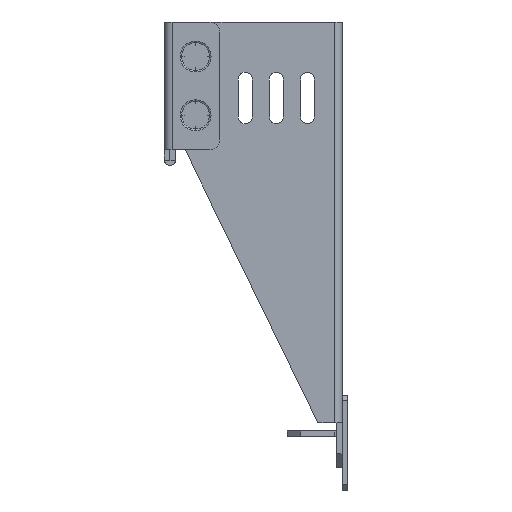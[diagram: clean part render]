
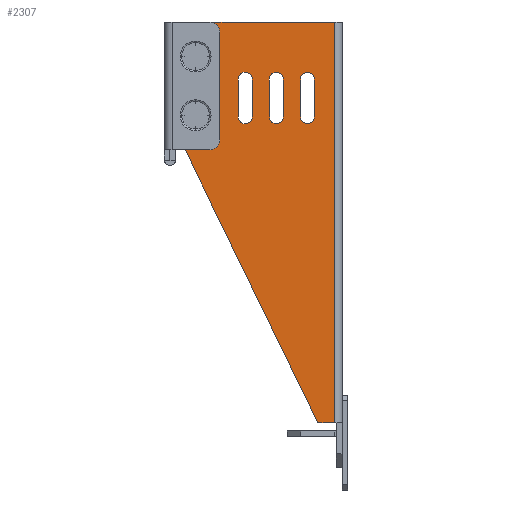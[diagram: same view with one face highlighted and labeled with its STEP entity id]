
A CAD part, left-side view. The second image highlights one B-rep face of the part: STEP entity #2307.
In plain terms, the highlighted planar face has unit normal (-1, 0, 0).
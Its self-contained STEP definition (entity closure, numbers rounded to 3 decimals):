
#485=DIRECTION('',(0.,1.,0.));
#486=VECTOR('',#485,46.2);
#487=CARTESIAN_POINT('',(-93.2,2.2,120.));
#488=LINE('',#487,#486);
#489=DIRECTION('',(0.,-1.,0.));
#490=VECTOR('',#489,4.8);
#491=CARTESIAN_POINT('',(-93.2,7.,4.));
#492=LINE('',#491,#490);
#493=DIRECTION('',(0.,-0.437,-0.899));
#494=VECTOR('',#493,90.074);
#495=CARTESIAN_POINT('',(-93.2,46.4,85.));
#496=LINE('',#495,#494);
#497=DIRECTION('',(0.,-1.,0.));
#498=VECTOR('',#497,2.);
#499=CARTESIAN_POINT('',(-93.2,48.4,85.));
#500=LINE('',#499,#498);
#501=DIRECTION('',(0.,0.,-1.));
#502=VECTOR('',#501,35.);
#503=CARTESIAN_POINT('',(-93.2,48.4,120.));
#504=LINE('',#503,#502);
#505=CARTESIAN_POINT('',(-93.2,10.,92.5));
#506=DIRECTION('',(-1.,0.,0.));
#507=DIRECTION('',(0.,1.,0.));
#508=AXIS2_PLACEMENT_3D('',#505,#506,#507);
#510=DIRECTION('',(0.,0.,-1.));
#511=VECTOR('',#510,11.);
#512=CARTESIAN_POINT('',(-93.2,8.,103.5));
#513=LINE('',#512,#511);
#514=CARTESIAN_POINT('',(-93.2,10.,103.5));
#515=DIRECTION('',(-1.,0.,0.));
#516=DIRECTION('',(0.,-1.,0.));
#517=AXIS2_PLACEMENT_3D('',#514,#515,#516);
#519=DIRECTION('',(0.,0.,1.));
#520=VECTOR('',#519,11.);
#521=CARTESIAN_POINT('',(-93.2,12.,92.5));
#522=LINE('',#521,#520);
#523=CARTESIAN_POINT('',(-93.2,19.,92.5));
#524=DIRECTION('',(-1.,0.,0.));
#525=DIRECTION('',(0.,1.,0.));
#526=AXIS2_PLACEMENT_3D('',#523,#524,#525);
#528=DIRECTION('',(0.,0.,-1.));
#529=VECTOR('',#528,11.);
#530=CARTESIAN_POINT('',(-93.2,17.,103.5));
#531=LINE('',#530,#529);
#532=CARTESIAN_POINT('',(-93.2,19.,103.5));
#533=DIRECTION('',(-1.,0.,0.));
#534=DIRECTION('',(0.,-1.,0.));
#535=AXIS2_PLACEMENT_3D('',#532,#533,#534);
#537=DIRECTION('',(0.,0.,1.));
#538=VECTOR('',#537,11.);
#539=CARTESIAN_POINT('',(-93.2,21.,92.5));
#540=LINE('',#539,#538);
#541=CARTESIAN_POINT('',(-93.2,28.,92.5));
#542=DIRECTION('',(-1.,0.,0.));
#543=DIRECTION('',(0.,1.,0.));
#544=AXIS2_PLACEMENT_3D('',#541,#542,#543);
#546=DIRECTION('',(0.,0.,-1.));
#547=VECTOR('',#546,11.);
#548=CARTESIAN_POINT('',(-93.2,26.,103.5));
#549=LINE('',#548,#547);
#550=CARTESIAN_POINT('',(-93.2,28.,103.5));
#551=DIRECTION('',(-1.,0.,0.));
#552=DIRECTION('',(0.,-1.,0.));
#553=AXIS2_PLACEMENT_3D('',#550,#551,#552);
#555=DIRECTION('',(0.,0.,1.));
#556=VECTOR('',#555,11.);
#557=CARTESIAN_POINT('',(-93.2,30.,92.5));
#558=LINE('',#557,#556);
#559=CARTESIAN_POINT('',(-93.2,42.4,110.));
#560=DIRECTION('',(1.,0.,0.));
#561=DIRECTION('',(0.,0.,1.));
#562=AXIS2_PLACEMENT_3D('',#559,#560,#561);
#564=CARTESIAN_POINT('',(-93.2,42.4,110.));
#565=DIRECTION('',(1.,0.,0.));
#566=DIRECTION('',(0.,0.,-1.));
#567=AXIS2_PLACEMENT_3D('',#564,#565,#566);
#569=CARTESIAN_POINT('',(-93.2,42.4,93.));
#570=DIRECTION('',(1.,0.,0.));
#571=DIRECTION('',(0.,0.,1.));
#572=AXIS2_PLACEMENT_3D('',#569,#570,#571);
#574=CARTESIAN_POINT('',(-93.2,42.4,93.));
#575=DIRECTION('',(1.,0.,0.));
#576=DIRECTION('',(0.,0.,-1.));
#577=AXIS2_PLACEMENT_3D('',#574,#575,#576);
#579=DIRECTION('',(0.,0.,1.));
#580=VECTOR('',#579,116.);
#581=CARTESIAN_POINT('',(-93.2,2.2,4.));
#582=LINE('',#581,#580);
#1337=CARTESIAN_POINT('',(-93.2,2.2,120.));
#1338=CARTESIAN_POINT('',(-93.2,48.4,120.));
#1339=VERTEX_POINT('',#1337);
#1340=VERTEX_POINT('',#1338);
#1341=CARTESIAN_POINT('',(-93.2,48.4,85.));
#1342=VERTEX_POINT('',#1341);
#1409=CARTESIAN_POINT('',(-93.2,12.,92.5));
#1410=CARTESIAN_POINT('',(-93.2,8.,92.5));
#1411=VERTEX_POINT('',#1409);
#1412=VERTEX_POINT('',#1410);
#1413=CARTESIAN_POINT('',(-93.2,12.,103.5));
#1414=VERTEX_POINT('',#1413);
#1415=CARTESIAN_POINT('',(-93.2,8.,103.5));
#1416=VERTEX_POINT('',#1415);
#1425=CARTESIAN_POINT('',(-93.2,21.,92.5));
#1426=CARTESIAN_POINT('',(-93.2,17.,92.5));
#1427=VERTEX_POINT('',#1425);
#1428=VERTEX_POINT('',#1426);
#1429=CARTESIAN_POINT('',(-93.2,21.,103.5));
#1430=VERTEX_POINT('',#1429);
#1431=CARTESIAN_POINT('',(-93.2,17.,103.5));
#1432=VERTEX_POINT('',#1431);
#1473=CARTESIAN_POINT('',(-93.2,7.,4.));
#1474=CARTESIAN_POINT('',(-93.2,2.2,4.));
#1475=VERTEX_POINT('',#1473);
#1476=VERTEX_POINT('',#1474);
#1489=CARTESIAN_POINT('',(-93.2,42.4,112.05));
#1490=CARTESIAN_POINT('',(-93.2,42.4,107.95));
#1491=VERTEX_POINT('',#1489);
#1492=VERTEX_POINT('',#1490);
#1497=CARTESIAN_POINT('',(-93.2,46.4,85.));
#1498=VERTEX_POINT('',#1497);
#1593=CARTESIAN_POINT('',(-93.2,30.,92.5));
#1594=CARTESIAN_POINT('',(-93.2,26.,92.5));
#1595=VERTEX_POINT('',#1593);
#1596=VERTEX_POINT('',#1594);
#1597=CARTESIAN_POINT('',(-93.2,30.,103.5));
#1598=VERTEX_POINT('',#1597);
#1599=CARTESIAN_POINT('',(-93.2,26.,103.5));
#1600=VERTEX_POINT('',#1599);
#1625=CARTESIAN_POINT('',(-93.2,42.4,95.05));
#1626=CARTESIAN_POINT('',(-93.2,42.4,90.95));
#1627=VERTEX_POINT('',#1625);
#1628=VERTEX_POINT('',#1626);
#2247=CARTESIAN_POINT('',(-93.2,0.,31.562));
#2248=DIRECTION('',(-1.,0.,0.));
#2249=DIRECTION('',(0.,0.,1.));
#2250=AXIS2_PLACEMENT_3D('',#2247,#2248,#2249);
#2251=PLANE('',#2250);
#2252=ORIENTED_EDGE('',*,*,#2237,.F.);
#2254=ORIENTED_EDGE('',*,*,#2253,.F.);
#2256=ORIENTED_EDGE('',*,*,#2255,.F.);
#2258=ORIENTED_EDGE('',*,*,#2257,.F.);
#2260=ORIENTED_EDGE('',*,*,#2259,.F.);
#2262=ORIENTED_EDGE('',*,*,#2261,.F.);
#2263=EDGE_LOOP('',(#2252,#2254,#2256,#2258,#2260,#2262));
#2264=FACE_OUTER_BOUND('',#2263,.F.);
#2266=ORIENTED_EDGE('',*,*,#2265,.T.);
#2268=ORIENTED_EDGE('',*,*,#2267,.F.);
#2270=ORIENTED_EDGE('',*,*,#2269,.T.);
#2272=ORIENTED_EDGE('',*,*,#2271,.F.);
#2273=EDGE_LOOP('',(#2266,#2268,#2270,#2272));
#2274=FACE_BOUND('',#2273,.F.);
#2276=ORIENTED_EDGE('',*,*,#2275,.T.);
#2278=ORIENTED_EDGE('',*,*,#2277,.F.);
#2280=ORIENTED_EDGE('',*,*,#2279,.T.);
#2282=ORIENTED_EDGE('',*,*,#2281,.F.);
#2283=EDGE_LOOP('',(#2276,#2278,#2280,#2282));
#2284=FACE_BOUND('',#2283,.F.);
#2286=ORIENTED_EDGE('',*,*,#2285,.T.);
#2288=ORIENTED_EDGE('',*,*,#2287,.F.);
#2290=ORIENTED_EDGE('',*,*,#2289,.T.);
#2292=ORIENTED_EDGE('',*,*,#2291,.F.);
#2293=EDGE_LOOP('',(#2286,#2288,#2290,#2292));
#2294=FACE_BOUND('',#2293,.F.);
#2296=ORIENTED_EDGE('',*,*,#2295,.F.);
#2298=ORIENTED_EDGE('',*,*,#2297,.F.);
#2299=EDGE_LOOP('',(#2296,#2298));
#2300=FACE_BOUND('',#2299,.F.);
#2302=ORIENTED_EDGE('',*,*,#2301,.F.);
#2304=ORIENTED_EDGE('',*,*,#2303,.F.);
#2305=EDGE_LOOP('',(#2302,#2304));
#2306=FACE_BOUND('',#2305,.F.);
#2307=ADVANCED_FACE('',(#2264,#2274,#2284,#2294,#2300,#2306),#2251,.T.);
#509=CIRCLE('',#508,2.);
#518=CIRCLE('',#517,2.);
#527=CIRCLE('',#526,2.);
#536=CIRCLE('',#535,2.);
#545=CIRCLE('',#544,2.);
#554=CIRCLE('',#553,2.);
#563=CIRCLE('',#562,2.05);
#568=CIRCLE('',#567,2.05);
#573=CIRCLE('',#572,2.05);
#578=CIRCLE('',#577,2.05);
#2237=EDGE_CURVE('',#1339,#1340,#488,.T.);
#2253=EDGE_CURVE('',#1476,#1339,#582,.T.);
#2255=EDGE_CURVE('',#1475,#1476,#492,.T.);
#2257=EDGE_CURVE('',#1498,#1475,#496,.T.);
#2259=EDGE_CURVE('',#1342,#1498,#500,.T.);
#2261=EDGE_CURVE('',#1340,#1342,#504,.T.);
#2265=EDGE_CURVE('',#1411,#1412,#509,.T.);
#2267=EDGE_CURVE('',#1416,#1412,#513,.T.);
#2269=EDGE_CURVE('',#1416,#1414,#518,.T.);
#2271=EDGE_CURVE('',#1411,#1414,#522,.T.);
#2275=EDGE_CURVE('',#1427,#1428,#527,.T.);
#2277=EDGE_CURVE('',#1432,#1428,#531,.T.);
#2279=EDGE_CURVE('',#1432,#1430,#536,.T.);
#2281=EDGE_CURVE('',#1427,#1430,#540,.T.);
#2285=EDGE_CURVE('',#1595,#1596,#545,.T.);
#2287=EDGE_CURVE('',#1600,#1596,#549,.T.);
#2289=EDGE_CURVE('',#1600,#1598,#554,.T.);
#2291=EDGE_CURVE('',#1595,#1598,#558,.T.);
#2295=EDGE_CURVE('',#1491,#1492,#563,.T.);
#2297=EDGE_CURVE('',#1492,#1491,#568,.T.);
#2301=EDGE_CURVE('',#1627,#1628,#573,.T.);
#2303=EDGE_CURVE('',#1628,#1627,#578,.T.);
